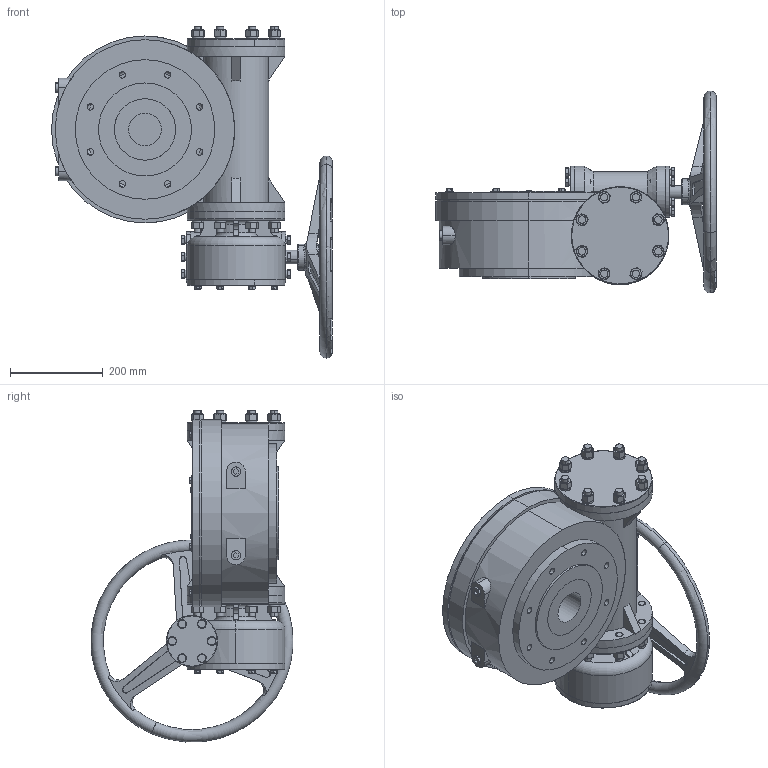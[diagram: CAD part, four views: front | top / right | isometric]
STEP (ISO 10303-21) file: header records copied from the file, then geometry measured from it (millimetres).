
FILE_DESCRIPTION (( 'STEP AP203' ), '1' );
FILE_NAME ('3D-120-1500-忒雄芛.STEP', '2026-02-06T04:46:43', ( '' ), ( '' ), 'SwSTEP 2.0', 'SolidWorks 2018', '' );
FILE_SCHEMA (( 'CONFIG_CONTROL_DESIGN' ));
Length unit declared in the file: millimetre
Products named in the file (22): 3D-120-1500-忒謫; 3D-120-1500-邧芛蹟翐M16x65; 3D-120-1500-弹簧垫圈 8; 3D-120-1500-霧齪; 3D-120-1500-湮眊极; 3D-120-1500-湮眊极傷裔; 3D-120-1500-弹簧垫圈 16; 3D-120-1500-鞠褒芛蹟邡 M12; 3D-120-1500-珨趼麥羞蹟隊; 3D-120-1500-湮眊极綴傷裔; 3D-120-1500-恦謫; 3D-120-1500-弹簧垫圈 10; 3D-120-1500-内六角平端紧定螺钉M20x40; 3D-120-1500-忒雄芛; 3D-120-1500-苤眊极ヶ傷裔; 3D-120-1500-苤眊极綴傷裔; 3D-120-1500-弹簧垫圈 12; 3D-120-1500-苤眊极; 3D-120-1500-鞠褒蹟譫M10_M16; 3D-120-1500-苤恘裝粣; 3D-120-1500-苤眊极傷裔; 3D-120-1500-鞠褒芛蹟邡 M8
Assembly tree (119 placements, depth 2):
  3D-120-1500-忒雄芛
    3D-120-1500-湮眊极
    3D-120-1500-湮眊极傷裔
    3D-120-1500-湮眊极綴傷裔
    3D-120-1500-苤眊极
    3D-120-1500-苤眊极傷裔
    3D-120-1500-苤眊极ヶ傷裔
    3D-120-1500-苤眊极綴傷裔
    3D-120-1500-苤恘裝粣
    3D-120-1500-忒謫
    3D-120-1500-恦謫
    3D-120-1500-霧齪
    3D-120-1500-珨趼麥羞蹟隊  x2
    3D-120-1500-鞠褒芛蹟邡 M8  x16
    3D-120-1500-弹簧垫圈 10  x8
    3D-120-1500-邧芛蹟翐M16x65  x16
    3D-120-1500-鞠褒蹟譫M10_M16  x16
    3D-120-1500-弹簧垫圈 16  x16
    3D-120-1500-弹簧垫圈 8  x8
    3D-120-1500-鞠褒芛蹟邡 M12  x12
    3D-120-1500-弹簧垫圈 12  x12
    3D-120-1500-内六角平端紧定螺钉M20x40  x2
Bounding box: 604.25 x 434.35 x 714.06 mm (x, y, z)
Volume: 23409477.5 mm3; surface area: 2254088.9 mm2
Topology: 119 solids, 119 shells, 2006 faces, 4884 edges, 3165 vertices
Faces by surface type: plane 898, cylinder 714, cone 269, torus 63, bspline 62
Entity records: 53337 total; most frequent: CARTESIAN_POINT 23529, DIRECTION 5313, ORIENTED_EDGE 5074, EDGE_CURVE 2537, AXIS2_PLACEMENT_3D 2120, VERTEX_POINT 1649, EDGE_LOOP 1248, LINE 1073
